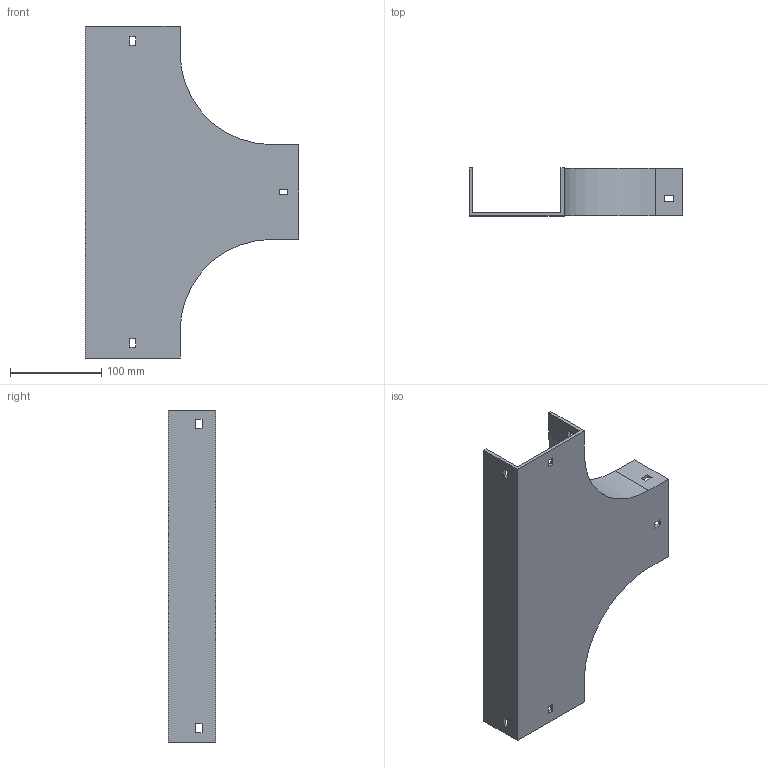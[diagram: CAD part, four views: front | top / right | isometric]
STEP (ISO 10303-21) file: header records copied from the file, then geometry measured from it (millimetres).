
FILE_DESCRIPTION (( 'STEP AP214' ), '1' );
FILE_NAME ('15F1B100.step', '2025-02-21T13:04:07', ( '' ), ( '' ), 'SwSTEP 2.0', 'SolidWorks 2023', '' );
FILE_SCHEMA (( 'AUTOMOTIVE_DESIGN' ));
Length unit declared in the file: millimetre
Products named in the file (1): 15F1B100
Bounding box: 234 x 52 x 364 mm (x, y, z)
Volume: 329174.7 mm3; surface area: 194043.4 mm2
Topology: 1 solids, 1 shells, 58 faces, 168 edges, 112 vertices
Faces by surface type: plane 54, cylinder 4
Entity records: 1939 total; most frequent: CARTESIAN_POINT 339, ORIENTED_EDGE 336, DIRECTION 294, EDGE_CURVE 168, LINE 160, VECTOR 160, VERTEX_POINT 112, EDGE_LOOP 76
